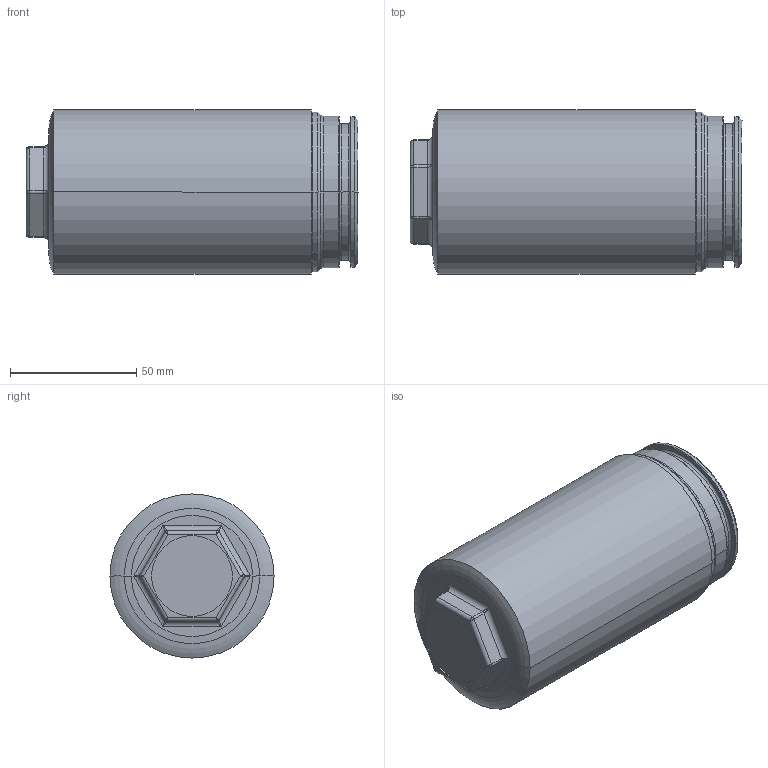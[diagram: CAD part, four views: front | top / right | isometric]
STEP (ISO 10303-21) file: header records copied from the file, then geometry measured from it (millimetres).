
FILE_DESCRIPTION((''),'2;1');
FILE_NAME('32268200_350901','2019-07-04T',('c.kretz'),(''),'PRO/ENGINEER BY PARAMETRIC TECHNOLOGY CORPORATION, 2015110','PRO/ENGINEER BY PARAMETRIC TECHNOLOGY CORPORATION, 2015110','');
FILE_SCHEMA(('AUTOMOTIVE_DESIGN { 1 0 10303 214 1 1 1 1 }'));
Length unit declared in the file: millimetre
Products named in the file (1): 32268200_350901
Bounding box: 131.5 x 65 x 65 mm (x, y, z)
Volume: 390578.6 mm3; surface area: 33388.3 mm2
Topology: 1 solids, 1 shells, 95 faces, 210 edges, 110 vertices
Faces by surface type: cylinder 34, bspline 24, plane 13, torus 12, cone 12
Entity records: 4967 total; most frequent: CARTESIAN_POINT 1225, ORIENTED_EDGE 396, DIRECTION 352, PRESENTATION_STYLE_ASSIGNMENT 257, STYLED_ITEM 199, CURVE_STYLE 198, EDGE_CURVE 198, AXIS2_PLACEMENT_3D 144
